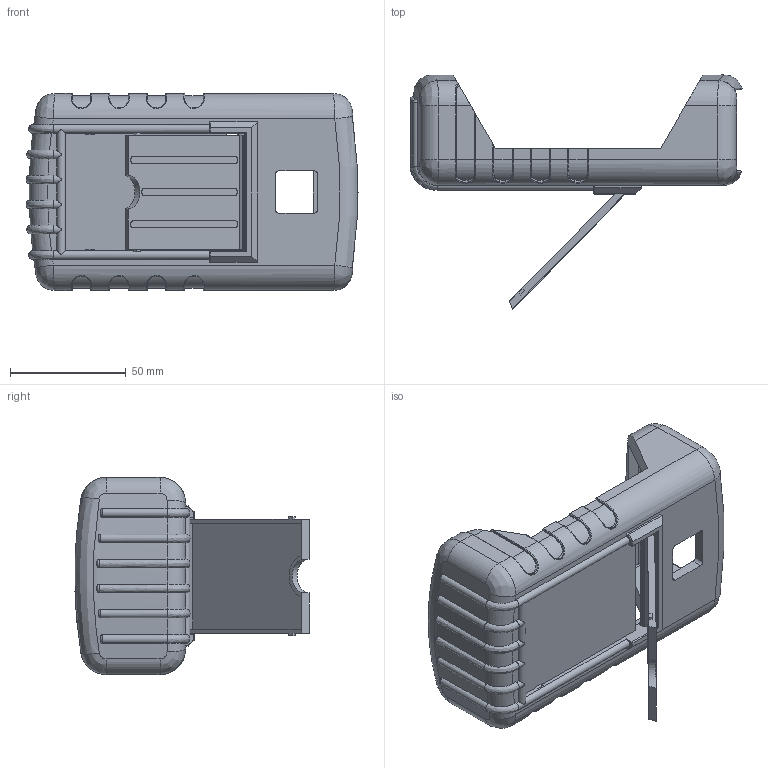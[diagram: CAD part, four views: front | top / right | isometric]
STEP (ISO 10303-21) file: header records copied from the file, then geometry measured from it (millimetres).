
FILE_DESCRIPTION (( 'STEP AP214' ), '1' );
FILE_NAME ('50 RBD Boot.STEP', '2020-06-17T15:34:50', ( 'Rudy' ), ( '' ), 'SwSTEP 2.0', 'SolidWorks 2014', '' );
FILE_SCHEMA (( 'AUTOMOTIVE_DESIGN' ));
Length unit declared in the file: inch
Products named in the file (3): 50 RBD Stand; 50 RBD Boot
Assembly tree (2 placements, depth 2):
  50 RBD Boot
    50 RBD Boot
    50 RBD Stand
Bounding box: 143.18 x 100.92 x 84.99 mm (x, y, z)
Volume: 116338.1 mm3; surface area: 59354.2 mm2
Topology: 2 solids, 2 shells, 390 faces, 1070 edges, 670 vertices
Faces by surface type: plane 159, cylinder 133, bspline 67, torus 27, sphere 4
Entity records: 16677 total; most frequent: CARTESIAN_POINT 7269, ORIENTED_EDGE 2132, DIRECTION 1748, EDGE_CURVE 1066, VERTEX_POINT 670, AXIS2_PLACEMENT_3D 597, VECTOR 554, LINE 554
